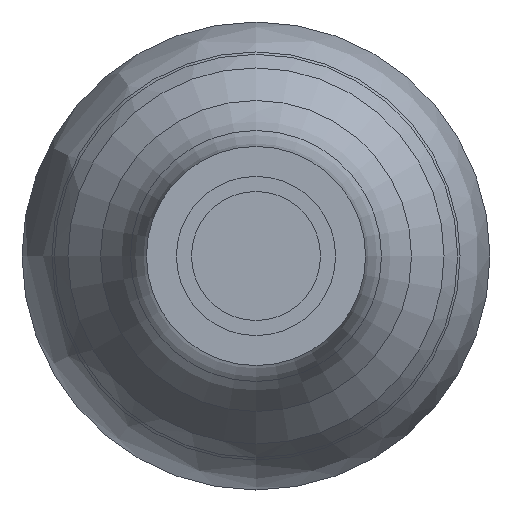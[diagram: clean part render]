
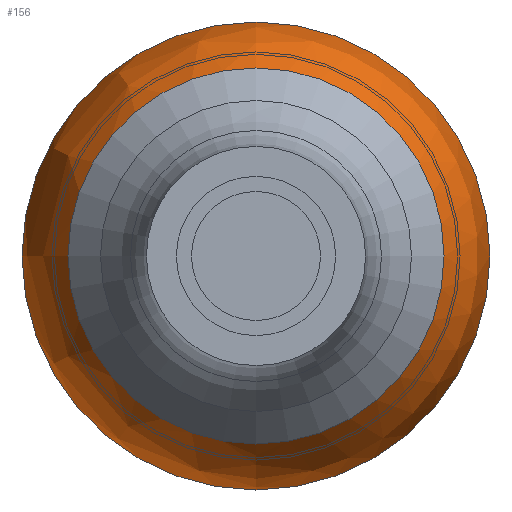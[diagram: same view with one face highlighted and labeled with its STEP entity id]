
A CAD part, left-side view. The second image highlights one B-rep face of the part: STEP entity #156.
In plain terms, the highlighted free-form (B-spline) face has degree [3, 3] with [4, 7] control points.
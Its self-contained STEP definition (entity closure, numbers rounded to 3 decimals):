
#156 = ADVANCED_FACE( '', ( #298, #299 ), #300, .T. );
#298 = FACE_OUTER_BOUND( '', #482, .T. );
#299 = FACE_OUTER_BOUND( '', #483, .T. );
#300 = ( BOUNDED_SURFACE(  )B_SPLINE_SURFACE( 3, 3, ( ( #486, #487, #488, #489, #490, #491, #492 ), ( #493, #494, #495, #496, #497, #498, #499 ), ( #500, #501, #502, #503, #504, #505, #506 ), ( #507, #508, #509, #510, #511, #512, #513 ) ), .UNSPECIFIED., .F., .T., .F. )B_SPLINE_SURFACE_WITH_KNOTS( ( 4, 4 ), ( 4, 3, 4 ), ( 0., 6.283 ), ( -0.693, -0.346, 0. ), .UNSPECIFIED. )GEOMETRIC_REPRESENTATION_ITEM(  )RATIONAL_B_SPLINE_SURFACE( ( ( 1., 0.333, 0.333, 1., 0.333, 0.333, 1. ), ( 0.96, 0.32, 0.32, 0.96, 0.32, 0.32, 0.96 ), ( 0.96, 0.32, 0.32, 0.96, 0.32, 0.32, 0.96 ), ( 1., 0.333, 0.333, 1., 0.333, 0.333, 1. ) ) )REPRESENTATION_ITEM( '' )SURFACE(  ) );
#482 = EDGE_LOOP( '', ( #730 ) );
#483 = EDGE_LOOP( '', ( #731 ) );
#486 = CARTESIAN_POINT( '', ( -13.471, 0., -2.35 ) );
#487 = CARTESIAN_POINT( '', ( -13.471, 4.7, -2.35 ) );
#488 = CARTESIAN_POINT( '', ( -13.471, 4.7, 2.35 ) );
#489 = CARTESIAN_POINT( '', ( -13.471, 0., 2.35 ) );
#490 = CARTESIAN_POINT( '', ( -13.471, -4.7, 2.35 ) );
#491 = CARTESIAN_POINT( '', ( -13.471, -4.7, -2.35 ) );
#492 = CARTESIAN_POINT( '', ( -13.471, 0., -2.35 ) );
#493 = CARTESIAN_POINT( '', ( -13.943, 0., -2.35 ) );
#494 = CARTESIAN_POINT( '', ( -13.943, 4.7, -2.35 ) );
#495 = CARTESIAN_POINT( '', ( -13.943, 4.7, 2.35 ) );
#496 = CARTESIAN_POINT( '', ( -13.943, 0., 2.35 ) );
#497 = CARTESIAN_POINT( '', ( -13.943, -4.7, 2.35 ) );
#498 = CARTESIAN_POINT( '', ( -13.943, -4.7, -2.35 ) );
#499 = CARTESIAN_POINT( '', ( -13.943, 0., -2.35 ) );
#500 = CARTESIAN_POINT( '', ( -14.386, 0., -2.19 ) );
#501 = CARTESIAN_POINT( '', ( -14.386, 4.38, -2.19 ) );
#502 = CARTESIAN_POINT( '', ( -14.386, 4.38, 2.19 ) );
#503 = CARTESIAN_POINT( '', ( -14.386, 0., 2.19 ) );
#504 = CARTESIAN_POINT( '', ( -14.386, -4.38, 2.19 ) );
#505 = CARTESIAN_POINT( '', ( -14.386, -4.38, -2.19 ) );
#506 = CARTESIAN_POINT( '', ( -14.386, 0., -2.19 ) );
#507 = CARTESIAN_POINT( '', ( -14.749, 0., -1.889 ) );
#508 = CARTESIAN_POINT( '', ( -14.749, 3.777, -1.889 ) );
#509 = CARTESIAN_POINT( '', ( -14.749, 3.777, 1.889 ) );
#510 = CARTESIAN_POINT( '', ( -14.749, 0., 1.889 ) );
#511 = CARTESIAN_POINT( '', ( -14.749, -3.777, 1.889 ) );
#512 = CARTESIAN_POINT( '', ( -14.749, -3.777, -1.889 ) );
#513 = CARTESIAN_POINT( '', ( -14.749, 0., -1.889 ) );
#730 = ORIENTED_EDGE( '', *, *, #970, .T. );
#731 = ORIENTED_EDGE( '', *, *, #971, .F. );
#970 = EDGE_CURVE( '', #1063, #1063, #1064, .F. );
#971 = EDGE_CURVE( '', #1065, #1065, #1066, .T. );
#1063 = VERTEX_POINT( '', #1187 );
#1064 = CIRCLE( '', #1188, 2.35 );
#1065 = VERTEX_POINT( '', #1189 );
#1066 = CIRCLE( '', #1190, 1.889 );
#1187 = CARTESIAN_POINT( '', ( -13.471, 0., -2.35 ) );
#1188 = AXIS2_PLACEMENT_3D( '', #1313, #1314, #1315 );
#1189 = CARTESIAN_POINT( '', ( -14.749, 0., 1.889 ) );
#1190 = AXIS2_PLACEMENT_3D( '', #1316, #1317, #1318 );
#1313 = CARTESIAN_POINT( '', ( -13.471, 0., 0. ) );
#1314 = DIRECTION( '', ( 1., 0., 0. ) );
#1315 = DIRECTION( '', ( 0., 0., -1. ) );
#1316 = CARTESIAN_POINT( '', ( -14.749, 0., 0. ) );
#1317 = DIRECTION( '', ( -1., 0., 0. ) );
#1318 = DIRECTION( '', ( 0., 0., 1. ) );
